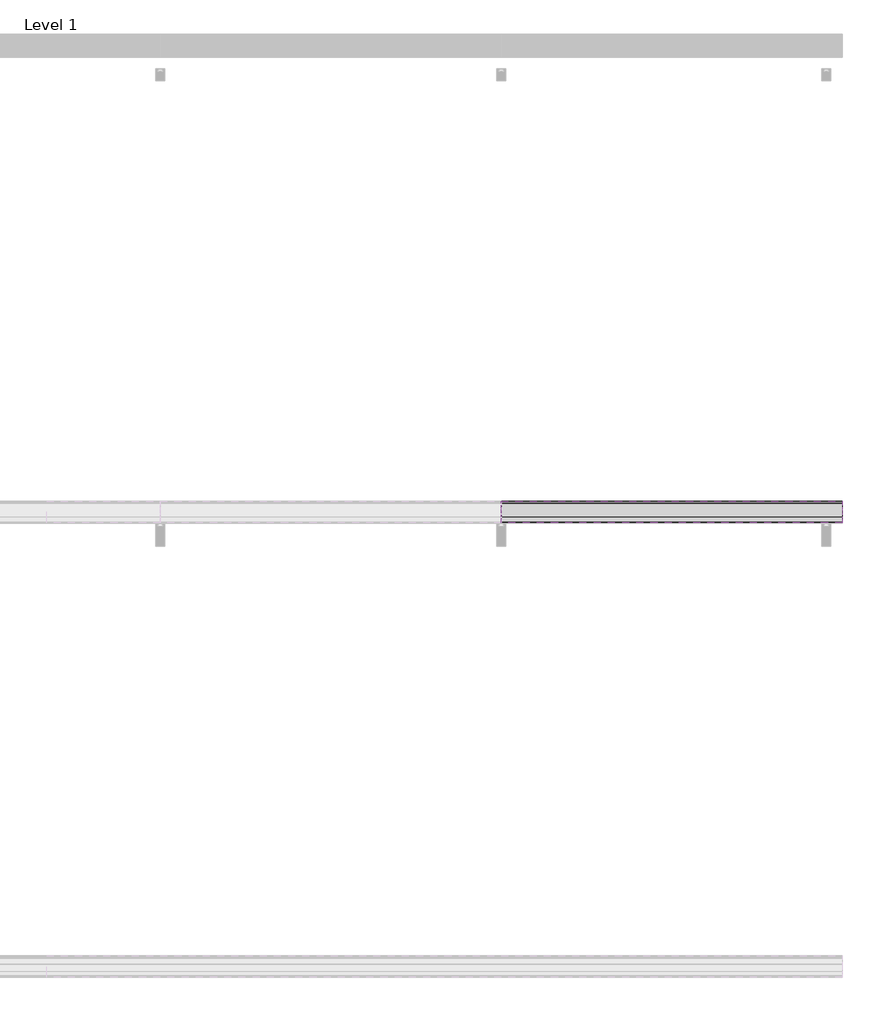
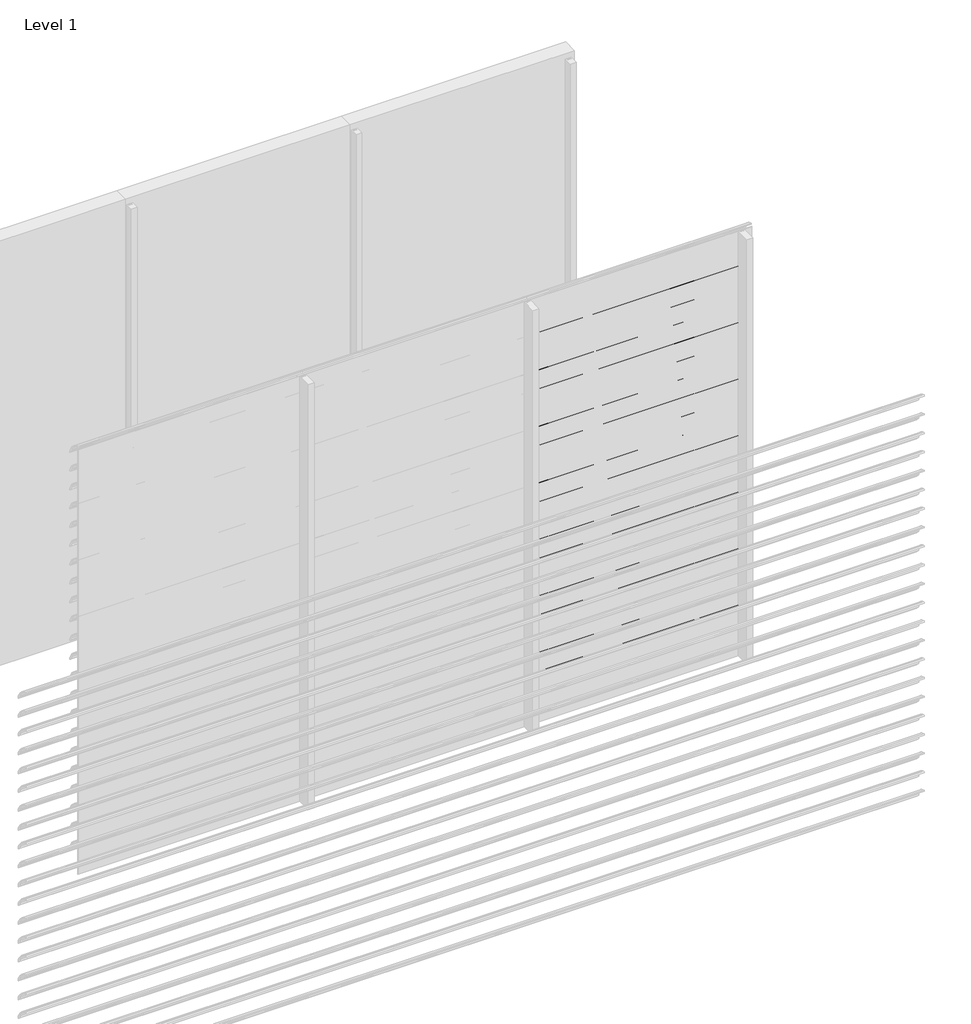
# One storey, part 24 of 57: 20 proxies.
"""IFC4 building model written with IfcOpenShell, lengths in millimetres."""

from ifc_helpers import new_model, si_unit, point, frame, frame_2d, origin, place, context, project, spatial, polyline, circle_curve, trimmed, segment, composite_curve, outline, extrude, element, save

model = new_model("IFC4")

# Units and contexts
model_context = context("Model", 3, world=origin())
ifc_project = project(units=[si_unit("LENGTHUNIT", "METRE", prefix="MILLI")], contexts=[model_context])

# Site, building, storey
site = spatial("IfcSite", under=ifc_project)
building = spatial("IfcBuilding", under=site)
storey = spatial("IfcBuildingStorey", under=building, Name="Level 1", Elevation=0.0)

# Proxies
placement = place(None, origin())
element("IfcBuildingElementProxy", 1, Name="Wall Sweeps", at=placement, inside=storey, context=model_context, shape_type="SweptSolid", body=[
    extrude(outline(composite_curve([segment(trimmed(circle_curve(frame_2d((-35993.7822526, 2750.4913792)), 4.2177474), [point((-35989.6985606, 2751.5462976))], [point((-35993.7822526, 2754.7091266))], False, "CARTESIAN"), True, "CONTINUOUS"), segment(trimmed(circle_curve(frame_2d((-36018.7150834, 2652.2536312)), 105.4456002), [point((-35993.7822526, 2754.7091266))], [point((-35971.7914298, 2746.6832099))], False, "CARTESIAN"), True, "CONTINUOUS"), segment(trimmed(circle_curve(frame_2d((-36061.7199745, 2598.0352476)), 173.7335887), [point((-35971.7914298, 2746.6832099))], [point((-35913.0720121, 2687.9637922))], False, "CARTESIAN"), True, "CONTINUOUS"), segment(trimmed(circle_curve(frame_2d((-36004.9297178, 2636.1860314)), 105.4456002), [point((-35913.0720121, 2687.9637922))], [point((-35903.6249616, 2665.4455765))], False, "CARTESIAN"), True, "CONTINUOUS"), segment(trimmed(circle_curve(frame_2d((-35907.809737, 2664.3307305)), 4.3307305), [point((-35903.6249616, 2665.4455765))], [point((-35909.0769196, 2660.189538))], False, "CARTESIAN"), True, "CONTINUOUS"), segment(polyline([(-35909.0769196, 2660.189538), (-35934.7401984, 2684.9722783)]), True, "CONTINUOUS"), segment(trimmed(circle_curve(frame_2d((-35931.3879574, 2687.2977626)), 4.079877), [point((-35934.7401984, 2684.9722783))], [point((-35930.7310597, 2691.3244091))], False, "CARTESIAN"), True, "CONTINUOUS"), segment(trimmed(circle_curve(frame_2d((-36014.6665585, 2669.2544323)), 86.7885467), [point((-35930.7310597, 2691.3244091))], [point((-35942.3028351, 2717.1683485))], True, "CARTESIAN"), True, "CONTINUOUS"), segment(polyline([(-35942.3028351, 2717.1683485), (-35940.7230099, 2719.9046861)]), True, "CONTINUOUS"), segment(trimmed(circle_curve(frame_2d((-36061.7199745, 2598.0352476)), 171.7335887), [point((-35940.7230099, 2719.9046861))], [point((-35972.7555872, 2744.9289618))], True, "CARTESIAN"), True, "CONTINUOUS"), segment(trimmed(circle_curve(frame_2d((-36018.7150834, 2652.2536312)), 103.4456002), [point((-35972.7555872, 2744.9289618))], [point((-35989.6985606, 2751.5462976))], True, "CARTESIAN"), True, "CONTINUOUS")], self_intersect=False)), frame((4500.0, 0.0, 0.0), z_axis=(1.0, 0.0, 0.0), x_axis=(0.0, 1.0, 0.0)), (0.0, 0.0, 1.0), 1500.0),
])
element("IfcBuildingElementProxy", 2, Name="Wall Sweeps", at=placement, inside=storey, context=model_context, shape_type="SweptSolid", body=[
    extrude(outline(composite_curve([segment(trimmed(circle_curve(frame_2d((-35993.7822526, 2617.4913792)), 4.2177474), [point((-35989.6985606, 2618.5462976))], [point((-35993.7822526, 2621.7091266))], False, "CARTESIAN"), True, "CONTINUOUS"), segment(trimmed(circle_curve(frame_2d((-36018.7150834, 2519.2536312)), 105.4456002), [point((-35993.7822526, 2621.7091266))], [point((-35971.7914298, 2613.6832099))], False, "CARTESIAN"), True, "CONTINUOUS"), segment(trimmed(circle_curve(frame_2d((-36061.7199745, 2465.0352476)), 173.7335887), [point((-35971.7914298, 2613.6832099))], [point((-35913.0720121, 2554.9637922))], False, "CARTESIAN"), True, "CONTINUOUS"), segment(trimmed(circle_curve(frame_2d((-36004.9297178, 2503.1860314)), 105.4456002), [point((-35913.0720121, 2554.9637922))], [point((-35903.6249616, 2532.4455765))], False, "CARTESIAN"), True, "CONTINUOUS"), segment(trimmed(circle_curve(frame_2d((-35907.809737, 2531.3307305)), 4.3307305), [point((-35903.6249616, 2532.4455765))], [point((-35909.0769196, 2527.189538))], False, "CARTESIAN"), True, "CONTINUOUS"), segment(polyline([(-35909.0769196, 2527.189538), (-35934.7401984, 2551.9722783)]), True, "CONTINUOUS"), segment(trimmed(circle_curve(frame_2d((-35931.3879574, 2554.2977626)), 4.079877), [point((-35934.7401984, 2551.9722783))], [point((-35930.7310597, 2558.3244091))], False, "CARTESIAN"), True, "CONTINUOUS"), segment(trimmed(circle_curve(frame_2d((-36014.6665585, 2536.2544323)), 86.7885467), [point((-35930.7310597, 2558.3244091))], [point((-35942.3028351, 2584.1683485))], True, "CARTESIAN"), True, "CONTINUOUS"), segment(polyline([(-35942.3028351, 2584.1683485), (-35940.7230099, 2586.9046861)]), True, "CONTINUOUS"), segment(trimmed(circle_curve(frame_2d((-36061.7199745, 2465.0352476)), 171.7335887), [point((-35940.7230099, 2586.9046861))], [point((-35972.7555872, 2611.9289618))], True, "CARTESIAN"), True, "CONTINUOUS"), segment(trimmed(circle_curve(frame_2d((-36018.7150834, 2519.2536312)), 103.4456002), [point((-35972.7555872, 2611.9289618))], [point((-35989.6985606, 2618.5462976))], True, "CARTESIAN"), True, "CONTINUOUS")], self_intersect=False)), frame((4500.0, 0.0, 0.0), z_axis=(1.0, 0.0, 0.0), x_axis=(0.0, 1.0, 0.0)), (0.0, 0.0, 1.0), 1500.0),
])
element("IfcBuildingElementProxy", 3, Name="Wall Sweeps", at=placement, inside=storey, context=model_context, shape_type="SweptSolid", body=[
    extrude(outline(composite_curve([segment(trimmed(circle_curve(frame_2d((-35993.7822526, 2484.4913792)), 4.2177474), [point((-35989.6985606, 2485.5462976))], [point((-35993.7822526, 2488.7091266))], False, "CARTESIAN"), True, "CONTINUOUS"), segment(trimmed(circle_curve(frame_2d((-36018.7150834, 2386.2536312)), 105.4456002), [point((-35993.7822526, 2488.7091266))], [point((-35971.7914298, 2480.6832099))], False, "CARTESIAN"), True, "CONTINUOUS"), segment(trimmed(circle_curve(frame_2d((-36061.7199745, 2332.0352476)), 173.7335887), [point((-35971.7914298, 2480.6832099))], [point((-35913.0720121, 2421.9637922))], False, "CARTESIAN"), True, "CONTINUOUS"), segment(trimmed(circle_curve(frame_2d((-36004.9297178, 2370.1860314)), 105.4456002), [point((-35913.0720121, 2421.9637922))], [point((-35903.6249616, 2399.4455765))], False, "CARTESIAN"), True, "CONTINUOUS"), segment(trimmed(circle_curve(frame_2d((-35907.809737, 2398.3307305)), 4.3307305), [point((-35903.6249616, 2399.4455765))], [point((-35909.0769196, 2394.189538))], False, "CARTESIAN"), True, "CONTINUOUS"), segment(polyline([(-35909.0769196, 2394.189538), (-35934.7401984, 2418.9722783)]), True, "CONTINUOUS"), segment(trimmed(circle_curve(frame_2d((-35931.3879574, 2421.2977626)), 4.079877), [point((-35934.7401984, 2418.9722783))], [point((-35930.7310597, 2425.3244091))], False, "CARTESIAN"), True, "CONTINUOUS"), segment(trimmed(circle_curve(frame_2d((-36014.6665585, 2403.2544323)), 86.7885467), [point((-35930.7310597, 2425.3244091))], [point((-35942.3028351, 2451.1683485))], True, "CARTESIAN"), True, "CONTINUOUS"), segment(polyline([(-35942.3028351, 2451.1683485), (-35940.7230099, 2453.9046861)]), True, "CONTINUOUS"), segment(trimmed(circle_curve(frame_2d((-36061.7199745, 2332.0352476)), 171.7335887), [point((-35940.7230099, 2453.9046861))], [point((-35972.7555872, 2478.9289618))], True, "CARTESIAN"), True, "CONTINUOUS"), segment(trimmed(circle_curve(frame_2d((-36018.7150834, 2386.2536312)), 103.4456002), [point((-35972.7555872, 2478.9289618))], [point((-35989.6985606, 2485.5462976))], True, "CARTESIAN"), True, "CONTINUOUS")], self_intersect=False)), frame((4500.0, 0.0, 0.0), z_axis=(1.0, 0.0, 0.0), x_axis=(0.0, 1.0, 0.0)), (0.0, 0.0, 1.0), 1500.0),
])
element("IfcBuildingElementProxy", 4, Name="Wall Sweeps", at=placement, inside=storey, context=model_context, shape_type="SweptSolid", body=[
    extrude(outline(composite_curve([segment(trimmed(circle_curve(frame_2d((-35993.7822526, 2351.4913792)), 4.2177474), [point((-35989.6985606, 2352.5462976))], [point((-35993.7822526, 2355.7091266))], False, "CARTESIAN"), True, "CONTINUOUS"), segment(trimmed(circle_curve(frame_2d((-36018.7150834, 2253.2536312)), 105.4456002), [point((-35993.7822526, 2355.7091266))], [point((-35971.7914298, 2347.6832099))], False, "CARTESIAN"), True, "CONTINUOUS"), segment(trimmed(circle_curve(frame_2d((-36061.7199745, 2199.0352476)), 173.7335887), [point((-35971.7914298, 2347.6832099))], [point((-35913.0720121, 2288.9637922))], False, "CARTESIAN"), True, "CONTINUOUS"), segment(trimmed(circle_curve(frame_2d((-36004.9297178, 2237.1860314)), 105.4456002), [point((-35913.0720121, 2288.9637922))], [point((-35903.6249616, 2266.4455765))], False, "CARTESIAN"), True, "CONTINUOUS"), segment(trimmed(circle_curve(frame_2d((-35907.809737, 2265.3307305)), 4.3307305), [point((-35903.6249616, 2266.4455765))], [point((-35909.0769196, 2261.189538))], False, "CARTESIAN"), True, "CONTINUOUS"), segment(polyline([(-35909.0769196, 2261.189538), (-35934.7401984, 2285.9722783)]), True, "CONTINUOUS"), segment(trimmed(circle_curve(frame_2d((-35931.3879574, 2288.2977626)), 4.079877), [point((-35934.7401984, 2285.9722783))], [point((-35930.7310597, 2292.3244091))], False, "CARTESIAN"), True, "CONTINUOUS"), segment(trimmed(circle_curve(frame_2d((-36014.6665585, 2270.2544323)), 86.7885467), [point((-35930.7310597, 2292.3244091))], [point((-35942.3028351, 2318.1683485))], True, "CARTESIAN"), True, "CONTINUOUS"), segment(polyline([(-35942.3028351, 2318.1683485), (-35940.7230099, 2320.9046861)]), True, "CONTINUOUS"), segment(trimmed(circle_curve(frame_2d((-36061.7199745, 2199.0352476)), 171.7335887), [point((-35940.7230099, 2320.9046861))], [point((-35972.7555872, 2345.9289618))], True, "CARTESIAN"), True, "CONTINUOUS"), segment(trimmed(circle_curve(frame_2d((-36018.7150834, 2253.2536312)), 103.4456002), [point((-35972.7555872, 2345.9289618))], [point((-35989.6985606, 2352.5462976))], True, "CARTESIAN"), True, "CONTINUOUS")], self_intersect=False)), frame((4500.0, 0.0, 0.0), z_axis=(1.0, 0.0, 0.0), x_axis=(0.0, 1.0, 0.0)), (0.0, 0.0, 1.0), 1500.0),
])
element("IfcBuildingElementProxy", 5, Name="Wall Sweeps", at=placement, inside=storey, context=model_context, shape_type="SweptSolid", body=[
    extrude(outline(composite_curve([segment(trimmed(circle_curve(frame_2d((-35993.7822526, 2218.4913792)), 4.2177474), [point((-35989.6985606, 2219.5462976))], [point((-35993.7822526, 2222.7091266))], False, "CARTESIAN"), True, "CONTINUOUS"), segment(trimmed(circle_curve(frame_2d((-36018.7150834, 2120.2536312)), 105.4456002), [point((-35993.7822526, 2222.7091266))], [point((-35971.7914298, 2214.6832099))], False, "CARTESIAN"), True, "CONTINUOUS"), segment(trimmed(circle_curve(frame_2d((-36061.7199745, 2066.0352476)), 173.7335887), [point((-35971.7914298, 2214.6832099))], [point((-35913.0720121, 2155.9637922))], False, "CARTESIAN"), True, "CONTINUOUS"), segment(trimmed(circle_curve(frame_2d((-36004.9297178, 2104.1860314)), 105.4456002), [point((-35913.0720121, 2155.9637922))], [point((-35903.6249616, 2133.4455765))], False, "CARTESIAN"), True, "CONTINUOUS"), segment(trimmed(circle_curve(frame_2d((-35907.809737, 2132.3307305)), 4.3307305), [point((-35903.6249616, 2133.4455765))], [point((-35909.0769196, 2128.189538))], False, "CARTESIAN"), True, "CONTINUOUS"), segment(polyline([(-35909.0769196, 2128.189538), (-35934.7401984, 2152.9722783)]), True, "CONTINUOUS"), segment(trimmed(circle_curve(frame_2d((-35931.3879574, 2155.2977626)), 4.079877), [point((-35934.7401984, 2152.9722783))], [point((-35930.7310597, 2159.3244091))], False, "CARTESIAN"), True, "CONTINUOUS"), segment(trimmed(circle_curve(frame_2d((-36014.6665585, 2137.2544323)), 86.7885467), [point((-35930.7310597, 2159.3244091))], [point((-35942.3028351, 2185.1683485))], True, "CARTESIAN"), True, "CONTINUOUS"), segment(polyline([(-35942.3028351, 2185.1683485), (-35940.7230099, 2187.9046861)]), True, "CONTINUOUS"), segment(trimmed(circle_curve(frame_2d((-36061.7199745, 2066.0352476)), 171.7335887), [point((-35940.7230099, 2187.9046861))], [point((-35972.7555872, 2212.9289618))], True, "CARTESIAN"), True, "CONTINUOUS"), segment(trimmed(circle_curve(frame_2d((-36018.7150834, 2120.2536312)), 103.4456002), [point((-35972.7555872, 2212.9289618))], [point((-35989.6985606, 2219.5462976))], True, "CARTESIAN"), True, "CONTINUOUS")], self_intersect=False)), frame((4500.0, 0.0, 0.0), z_axis=(1.0, 0.0, 0.0), x_axis=(0.0, 1.0, 0.0)), (0.0, 0.0, 1.0), 1500.0),
])
element("IfcBuildingElementProxy", 6, Name="Wall Sweeps", at=placement, inside=storey, context=model_context, shape_type="SweptSolid", body=[
    extrude(outline(composite_curve([segment(trimmed(circle_curve(frame_2d((-35993.7822526, 2085.4913792)), 4.2177474), [point((-35989.6985606, 2086.5462976))], [point((-35993.7822526, 2089.7091266))], False, "CARTESIAN"), True, "CONTINUOUS"), segment(trimmed(circle_curve(frame_2d((-36018.7150834, 1987.2536312)), 105.4456002), [point((-35993.7822526, 2089.7091266))], [point((-35971.7914298, 2081.6832099))], False, "CARTESIAN"), True, "CONTINUOUS"), segment(trimmed(circle_curve(frame_2d((-36061.7199745, 1933.0352476)), 173.7335887), [point((-35971.7914298, 2081.6832099))], [point((-35913.0720121, 2022.9637922))], False, "CARTESIAN"), True, "CONTINUOUS"), segment(trimmed(circle_curve(frame_2d((-36004.9297178, 1971.1860314)), 105.4456002), [point((-35913.0720121, 2022.9637922))], [point((-35903.6249616, 2000.4455765))], False, "CARTESIAN"), True, "CONTINUOUS"), segment(trimmed(circle_curve(frame_2d((-35907.809737, 1999.3307305)), 4.3307305), [point((-35903.6249616, 2000.4455765))], [point((-35909.0769196, 1995.189538))], False, "CARTESIAN"), True, "CONTINUOUS"), segment(polyline([(-35909.0769196, 1995.189538), (-35934.7401984, 2019.9722783)]), True, "CONTINUOUS"), segment(trimmed(circle_curve(frame_2d((-35931.3879574, 2022.2977626)), 4.079877), [point((-35934.7401984, 2019.9722783))], [point((-35930.7310597, 2026.3244091))], False, "CARTESIAN"), True, "CONTINUOUS"), segment(trimmed(circle_curve(frame_2d((-36014.6665585, 2004.2544323)), 86.7885467), [point((-35930.7310597, 2026.3244091))], [point((-35942.3028351, 2052.1683485))], True, "CARTESIAN"), True, "CONTINUOUS"), segment(polyline([(-35942.3028351, 2052.1683485), (-35940.7230099, 2054.9046861)]), True, "CONTINUOUS"), segment(trimmed(circle_curve(frame_2d((-36061.7199745, 1933.0352476)), 171.7335887), [point((-35940.7230099, 2054.9046861))], [point((-35972.7555872, 2079.9289618))], True, "CARTESIAN"), True, "CONTINUOUS"), segment(trimmed(circle_curve(frame_2d((-36018.7150834, 1987.2536312)), 103.4456002), [point((-35972.7555872, 2079.9289618))], [point((-35989.6985606, 2086.5462976))], True, "CARTESIAN"), True, "CONTINUOUS")], self_intersect=False)), frame((4500.0, 0.0, 0.0), z_axis=(1.0, 0.0, 0.0), x_axis=(0.0, 1.0, 0.0)), (0.0, 0.0, 1.0), 1500.0),
])
element("IfcBuildingElementProxy", 7, Name="Wall Sweeps", at=placement, inside=storey, context=model_context, shape_type="SweptSolid", body=[
    extrude(outline(composite_curve([segment(trimmed(circle_curve(frame_2d((-35993.7822526, 1952.4913792)), 4.2177474), [point((-35989.6985606, 1953.5462976))], [point((-35993.7822526, 1956.7091266))], False, "CARTESIAN"), True, "CONTINUOUS"), segment(trimmed(circle_curve(frame_2d((-36018.7150834, 1854.2536312)), 105.4456002), [point((-35993.7822526, 1956.7091266))], [point((-35971.7914298, 1948.6832099))], False, "CARTESIAN"), True, "CONTINUOUS"), segment(trimmed(circle_curve(frame_2d((-36061.7199745, 1800.0352476)), 173.7335887), [point((-35971.7914298, 1948.6832099))], [point((-35913.0720121, 1889.9637922))], False, "CARTESIAN"), True, "CONTINUOUS"), segment(trimmed(circle_curve(frame_2d((-36004.9297178, 1838.1860314)), 105.4456002), [point((-35913.0720121, 1889.9637922))], [point((-35903.6249616, 1867.4455765))], False, "CARTESIAN"), True, "CONTINUOUS"), segment(trimmed(circle_curve(frame_2d((-35907.809737, 1866.3307305)), 4.3307305), [point((-35903.6249616, 1867.4455765))], [point((-35909.0769196, 1862.189538))], False, "CARTESIAN"), True, "CONTINUOUS"), segment(polyline([(-35909.0769196, 1862.189538), (-35934.7401984, 1886.9722783)]), True, "CONTINUOUS"), segment(trimmed(circle_curve(frame_2d((-35931.3879574, 1889.2977626)), 4.079877), [point((-35934.7401984, 1886.9722783))], [point((-35930.7310597, 1893.3244091))], False, "CARTESIAN"), True, "CONTINUOUS"), segment(trimmed(circle_curve(frame_2d((-36014.6665585, 1871.2544323)), 86.7885467), [point((-35930.7310597, 1893.3244091))], [point((-35942.3028351, 1919.1683485))], True, "CARTESIAN"), True, "CONTINUOUS"), segment(polyline([(-35942.3028351, 1919.1683485), (-35940.7230099, 1921.9046861)]), True, "CONTINUOUS"), segment(trimmed(circle_curve(frame_2d((-36061.7199745, 1800.0352476)), 171.7335887), [point((-35940.7230099, 1921.9046861))], [point((-35972.7555872, 1946.9289618))], True, "CARTESIAN"), True, "CONTINUOUS"), segment(trimmed(circle_curve(frame_2d((-36018.7150834, 1854.2536312)), 103.4456002), [point((-35972.7555872, 1946.9289618))], [point((-35989.6985606, 1953.5462976))], True, "CARTESIAN"), True, "CONTINUOUS")], self_intersect=False)), frame((4500.0, 0.0, 0.0), z_axis=(1.0, 0.0, 0.0), x_axis=(0.0, 1.0, 0.0)), (0.0, 0.0, 1.0), 1500.0),
])
element("IfcBuildingElementProxy", 8, Name="Wall Sweeps", at=placement, inside=storey, context=model_context, shape_type="SweptSolid", body=[
    extrude(outline(composite_curve([segment(trimmed(circle_curve(frame_2d((-35993.7822526, 1819.4913792)), 4.2177474), [point((-35989.6985606, 1820.5462976))], [point((-35993.7822526, 1823.7091266))], False, "CARTESIAN"), True, "CONTINUOUS"), segment(trimmed(circle_curve(frame_2d((-36018.7150834, 1721.2536312)), 105.4456002), [point((-35993.7822526, 1823.7091266))], [point((-35971.7914298, 1815.6832099))], False, "CARTESIAN"), True, "CONTINUOUS"), segment(trimmed(circle_curve(frame_2d((-36061.7199745, 1667.0352476)), 173.7335887), [point((-35971.7914298, 1815.6832099))], [point((-35913.0720121, 1756.9637922))], False, "CARTESIAN"), True, "CONTINUOUS"), segment(trimmed(circle_curve(frame_2d((-36004.9297178, 1705.1860314)), 105.4456002), [point((-35913.0720121, 1756.9637922))], [point((-35903.6249616, 1734.4455765))], False, "CARTESIAN"), True, "CONTINUOUS"), segment(trimmed(circle_curve(frame_2d((-35907.809737, 1733.3307305)), 4.3307305), [point((-35903.6249616, 1734.4455765))], [point((-35909.0769196, 1729.189538))], False, "CARTESIAN"), True, "CONTINUOUS"), segment(polyline([(-35909.0769196, 1729.189538), (-35934.7401984, 1753.9722783)]), True, "CONTINUOUS"), segment(trimmed(circle_curve(frame_2d((-35931.3879574, 1756.2977626)), 4.079877), [point((-35934.7401984, 1753.9722783))], [point((-35930.7310597, 1760.3244091))], False, "CARTESIAN"), True, "CONTINUOUS"), segment(trimmed(circle_curve(frame_2d((-36014.6665585, 1738.2544323)), 86.7885467), [point((-35930.7310597, 1760.3244091))], [point((-35942.3028351, 1786.1683485))], True, "CARTESIAN"), True, "CONTINUOUS"), segment(polyline([(-35942.3028351, 1786.1683485), (-35940.7230099, 1788.9046861)]), True, "CONTINUOUS"), segment(trimmed(circle_curve(frame_2d((-36061.7199745, 1667.0352476)), 171.7335887), [point((-35940.7230099, 1788.9046861))], [point((-35972.7555872, 1813.9289618))], True, "CARTESIAN"), True, "CONTINUOUS"), segment(trimmed(circle_curve(frame_2d((-36018.7150834, 1721.2536312)), 103.4456002), [point((-35972.7555872, 1813.9289618))], [point((-35989.6985606, 1820.5462976))], True, "CARTESIAN"), True, "CONTINUOUS")], self_intersect=False)), frame((4500.0, 0.0, 0.0), z_axis=(1.0, 0.0, 0.0), x_axis=(0.0, 1.0, 0.0)), (0.0, 0.0, 1.0), 1500.0),
])
element("IfcBuildingElementProxy", 9, Name="Wall Sweeps", at=placement, inside=storey, context=model_context, shape_type="SweptSolid", body=[
    extrude(outline(composite_curve([segment(trimmed(circle_curve(frame_2d((-35993.7822526, 1686.4913792)), 4.2177474), [point((-35989.6985606, 1687.5462976))], [point((-35993.7822526, 1690.7091266))], False, "CARTESIAN"), True, "CONTINUOUS"), segment(trimmed(circle_curve(frame_2d((-36018.7150834, 1588.2536312)), 105.4456002), [point((-35993.7822526, 1690.7091266))], [point((-35971.7914298, 1682.6832099))], False, "CARTESIAN"), True, "CONTINUOUS"), segment(trimmed(circle_curve(frame_2d((-36061.7199745, 1534.0352476)), 173.7335887), [point((-35971.7914298, 1682.6832099))], [point((-35913.0720121, 1623.9637922))], False, "CARTESIAN"), True, "CONTINUOUS"), segment(trimmed(circle_curve(frame_2d((-36004.9297178, 1572.1860314)), 105.4456002), [point((-35913.0720121, 1623.9637922))], [point((-35903.6249616, 1601.4455765))], False, "CARTESIAN"), True, "CONTINUOUS"), segment(trimmed(circle_curve(frame_2d((-35907.809737, 1600.3307305)), 4.3307305), [point((-35903.6249616, 1601.4455765))], [point((-35909.0769196, 1596.189538))], False, "CARTESIAN"), True, "CONTINUOUS"), segment(polyline([(-35909.0769196, 1596.189538), (-35934.7401984, 1620.9722783)]), True, "CONTINUOUS"), segment(trimmed(circle_curve(frame_2d((-35931.3879574, 1623.2977626)), 4.079877), [point((-35934.7401984, 1620.9722783))], [point((-35930.7310597, 1627.3244091))], False, "CARTESIAN"), True, "CONTINUOUS"), segment(trimmed(circle_curve(frame_2d((-36014.6665585, 1605.2544323)), 86.7885467), [point((-35930.7310597, 1627.3244091))], [point((-35942.3028351, 1653.1683485))], True, "CARTESIAN"), True, "CONTINUOUS"), segment(polyline([(-35942.3028351, 1653.1683485), (-35940.7230099, 1655.9046861)]), True, "CONTINUOUS"), segment(trimmed(circle_curve(frame_2d((-36061.7199745, 1534.0352476)), 171.7335887), [point((-35940.7230099, 1655.9046861))], [point((-35972.7555872, 1680.9289618))], True, "CARTESIAN"), True, "CONTINUOUS"), segment(trimmed(circle_curve(frame_2d((-36018.7150834, 1588.2536312)), 103.4456002), [point((-35972.7555872, 1680.9289618))], [point((-35989.6985606, 1687.5462976))], True, "CARTESIAN"), True, "CONTINUOUS")], self_intersect=False)), frame((4500.0, 0.0, 0.0), z_axis=(1.0, 0.0, 0.0), x_axis=(0.0, 1.0, 0.0)), (0.0, 0.0, 1.0), 1500.0),
])
element("IfcBuildingElementProxy", 10, Name="Wall Sweeps", at=placement, inside=storey, context=model_context, shape_type="SweptSolid", body=[
    extrude(outline(composite_curve([segment(trimmed(circle_curve(frame_2d((-35993.7822526, 1553.4913792)), 4.2177474), [point((-35989.6985606, 1554.5462976))], [point((-35993.7822526, 1557.7091266))], False, "CARTESIAN"), True, "CONTINUOUS"), segment(trimmed(circle_curve(frame_2d((-36018.7150834, 1455.2536312)), 105.4456002), [point((-35993.7822526, 1557.7091266))], [point((-35971.7914298, 1549.6832099))], False, "CARTESIAN"), True, "CONTINUOUS"), segment(trimmed(circle_curve(frame_2d((-36061.7199745, 1401.0352476)), 173.7335887), [point((-35971.7914298, 1549.6832099))], [point((-35913.0720121, 1490.9637922))], False, "CARTESIAN"), True, "CONTINUOUS"), segment(trimmed(circle_curve(frame_2d((-36004.9297178, 1439.1860314)), 105.4456002), [point((-35913.0720121, 1490.9637922))], [point((-35903.6249616, 1468.4455765))], False, "CARTESIAN"), True, "CONTINUOUS"), segment(trimmed(circle_curve(frame_2d((-35907.809737, 1467.3307305)), 4.3307305), [point((-35903.6249616, 1468.4455765))], [point((-35909.0769196, 1463.189538))], False, "CARTESIAN"), True, "CONTINUOUS"), segment(polyline([(-35909.0769196, 1463.189538), (-35934.7401984, 1487.9722783)]), True, "CONTINUOUS"), segment(trimmed(circle_curve(frame_2d((-35931.3879574, 1490.2977626)), 4.079877), [point((-35934.7401984, 1487.9722783))], [point((-35930.7310597, 1494.3244091))], False, "CARTESIAN"), True, "CONTINUOUS"), segment(trimmed(circle_curve(frame_2d((-36014.6665585, 1472.2544323)), 86.7885467), [point((-35930.7310597, 1494.3244091))], [point((-35942.3028351, 1520.1683485))], True, "CARTESIAN"), True, "CONTINUOUS"), segment(polyline([(-35942.3028351, 1520.1683485), (-35940.7230099, 1522.9046861)]), True, "CONTINUOUS"), segment(trimmed(circle_curve(frame_2d((-36061.7199745, 1401.0352476)), 171.7335887), [point((-35940.7230099, 1522.9046861))], [point((-35972.7555872, 1547.9289618))], True, "CARTESIAN"), True, "CONTINUOUS"), segment(trimmed(circle_curve(frame_2d((-36018.7150834, 1455.2536312)), 103.4456002), [point((-35972.7555872, 1547.9289618))], [point((-35989.6985606, 1554.5462976))], True, "CARTESIAN"), True, "CONTINUOUS")], self_intersect=False)), frame((4500.0, 0.0, 0.0), z_axis=(1.0, 0.0, 0.0), x_axis=(0.0, 1.0, 0.0)), (0.0, 0.0, 1.0), 1500.0),
])
element("IfcBuildingElementProxy", 11, Name="Wall Sweeps", at=placement, inside=storey, context=model_context, shape_type="SweptSolid", body=[
    extrude(outline(composite_curve([segment(trimmed(circle_curve(frame_2d((-35993.7822526, 1420.4913792)), 4.2177474), [point((-35989.6985606, 1421.5462976))], [point((-35993.7822526, 1424.7091266))], False, "CARTESIAN"), True, "CONTINUOUS"), segment(trimmed(circle_curve(frame_2d((-36018.7150834, 1322.2536312)), 105.4456002), [point((-35993.7822526, 1424.7091266))], [point((-35971.7914298, 1416.6832099))], False, "CARTESIAN"), True, "CONTINUOUS"), segment(trimmed(circle_curve(frame_2d((-36061.7199745, 1268.0352476)), 173.7335887), [point((-35971.7914298, 1416.6832099))], [point((-35913.0720121, 1357.9637922))], False, "CARTESIAN"), True, "CONTINUOUS"), segment(trimmed(circle_curve(frame_2d((-36004.9297178, 1306.1860314)), 105.4456002), [point((-35913.0720121, 1357.9637922))], [point((-35903.6249616, 1335.4455765))], False, "CARTESIAN"), True, "CONTINUOUS"), segment(trimmed(circle_curve(frame_2d((-35907.809737, 1334.3307305)), 4.3307305), [point((-35903.6249616, 1335.4455765))], [point((-35909.0769196, 1330.189538))], False, "CARTESIAN"), True, "CONTINUOUS"), segment(polyline([(-35909.0769196, 1330.189538), (-35934.7401984, 1354.9722783)]), True, "CONTINUOUS"), segment(trimmed(circle_curve(frame_2d((-35931.3879574, 1357.2977626)), 4.079877), [point((-35934.7401984, 1354.9722783))], [point((-35930.7310597, 1361.3244091))], False, "CARTESIAN"), True, "CONTINUOUS"), segment(trimmed(circle_curve(frame_2d((-36014.6665585, 1339.2544323)), 86.7885467), [point((-35930.7310597, 1361.3244091))], [point((-35942.3028351, 1387.1683485))], True, "CARTESIAN"), True, "CONTINUOUS"), segment(polyline([(-35942.3028351, 1387.1683485), (-35940.7230099, 1389.9046861)]), True, "CONTINUOUS"), segment(trimmed(circle_curve(frame_2d((-36061.7199745, 1268.0352476)), 171.7335887), [point((-35940.7230099, 1389.9046861))], [point((-35972.7555872, 1414.9289618))], True, "CARTESIAN"), True, "CONTINUOUS"), segment(trimmed(circle_curve(frame_2d((-36018.7150834, 1322.2536312)), 103.4456002), [point((-35972.7555872, 1414.9289618))], [point((-35989.6985606, 1421.5462976))], True, "CARTESIAN"), True, "CONTINUOUS")], self_intersect=False)), frame((4500.0, 0.0, 0.0), z_axis=(1.0, 0.0, 0.0), x_axis=(0.0, 1.0, 0.0)), (0.0, 0.0, 1.0), 1500.0),
])
element("IfcBuildingElementProxy", 12, Name="Wall Sweeps", at=placement, inside=storey, context=model_context, shape_type="SweptSolid", body=[
    extrude(outline(composite_curve([segment(trimmed(circle_curve(frame_2d((-35993.7822526, 1287.4913792)), 4.2177474), [point((-35989.6985606, 1288.5462976))], [point((-35993.7822526, 1291.7091266))], False, "CARTESIAN"), True, "CONTINUOUS"), segment(trimmed(circle_curve(frame_2d((-36018.7150834, 1189.2536312)), 105.4456002), [point((-35993.7822526, 1291.7091266))], [point((-35971.7914298, 1283.6832099))], False, "CARTESIAN"), True, "CONTINUOUS"), segment(trimmed(circle_curve(frame_2d((-36061.7199745, 1135.0352476)), 173.7335887), [point((-35971.7914298, 1283.6832099))], [point((-35913.0720121, 1224.9637922))], False, "CARTESIAN"), True, "CONTINUOUS"), segment(trimmed(circle_curve(frame_2d((-36004.9297178, 1173.1860314)), 105.4456002), [point((-35913.0720121, 1224.9637922))], [point((-35903.6249616, 1202.4455765))], False, "CARTESIAN"), True, "CONTINUOUS"), segment(trimmed(circle_curve(frame_2d((-35907.809737, 1201.3307305)), 4.3307305), [point((-35903.6249616, 1202.4455765))], [point((-35909.0769196, 1197.189538))], False, "CARTESIAN"), True, "CONTINUOUS"), segment(polyline([(-35909.0769196, 1197.189538), (-35934.7401984, 1221.9722783)]), True, "CONTINUOUS"), segment(trimmed(circle_curve(frame_2d((-35931.3879574, 1224.2977626)), 4.079877), [point((-35934.7401984, 1221.9722783))], [point((-35930.7310597, 1228.3244091))], False, "CARTESIAN"), True, "CONTINUOUS"), segment(trimmed(circle_curve(frame_2d((-36014.6665585, 1206.2544323)), 86.7885467), [point((-35930.7310597, 1228.3244091))], [point((-35942.3028351, 1254.1683485))], True, "CARTESIAN"), True, "CONTINUOUS"), segment(polyline([(-35942.3028351, 1254.1683485), (-35940.7230099, 1256.9046861)]), True, "CONTINUOUS"), segment(trimmed(circle_curve(frame_2d((-36061.7199745, 1135.0352476)), 171.7335887), [point((-35940.7230099, 1256.9046861))], [point((-35972.7555872, 1281.9289618))], True, "CARTESIAN"), True, "CONTINUOUS"), segment(trimmed(circle_curve(frame_2d((-36018.7150834, 1189.2536312)), 103.4456002), [point((-35972.7555872, 1281.9289618))], [point((-35989.6985606, 1288.5462976))], True, "CARTESIAN"), True, "CONTINUOUS")], self_intersect=False)), frame((4500.0, 0.0, 0.0), z_axis=(1.0, 0.0, 0.0), x_axis=(0.0, 1.0, 0.0)), (0.0, 0.0, 1.0), 1500.0),
])
element("IfcBuildingElementProxy", 13, Name="Wall Sweeps", at=placement, inside=storey, context=model_context, shape_type="SweptSolid", body=[
    extrude(outline(composite_curve([segment(trimmed(circle_curve(frame_2d((-35993.7822526, 1154.4913792)), 4.2177474), [point((-35989.6985606, 1155.5462976))], [point((-35993.7822526, 1158.7091266))], False, "CARTESIAN"), True, "CONTINUOUS"), segment(trimmed(circle_curve(frame_2d((-36018.7150834, 1056.2536312)), 105.4456002), [point((-35993.7822526, 1158.7091266))], [point((-35971.7914298, 1150.6832099))], False, "CARTESIAN"), True, "CONTINUOUS"), segment(trimmed(circle_curve(frame_2d((-36061.7199745, 1002.0352476)), 173.7335887), [point((-35971.7914298, 1150.6832099))], [point((-35913.0720121, 1091.9637922))], False, "CARTESIAN"), True, "CONTINUOUS"), segment(trimmed(circle_curve(frame_2d((-36004.9297178, 1040.1860314)), 105.4456002), [point((-35913.0720121, 1091.9637922))], [point((-35903.6249616, 1069.4455765))], False, "CARTESIAN"), True, "CONTINUOUS"), segment(trimmed(circle_curve(frame_2d((-35907.809737, 1068.3307305)), 4.3307305), [point((-35903.6249616, 1069.4455765))], [point((-35909.0769196, 1064.189538))], False, "CARTESIAN"), True, "CONTINUOUS"), segment(polyline([(-35909.0769196, 1064.189538), (-35934.7401984, 1088.9722783)]), True, "CONTINUOUS"), segment(trimmed(circle_curve(frame_2d((-35931.3879574, 1091.2977626)), 4.079877), [point((-35934.7401984, 1088.9722783))], [point((-35930.7310597, 1095.3244091))], False, "CARTESIAN"), True, "CONTINUOUS"), segment(trimmed(circle_curve(frame_2d((-36014.6665585, 1073.2544323)), 86.7885467), [point((-35930.7310597, 1095.3244091))], [point((-35942.3028351, 1121.1683485))], True, "CARTESIAN"), True, "CONTINUOUS"), segment(polyline([(-35942.3028351, 1121.1683485), (-35940.7230099, 1123.9046861)]), True, "CONTINUOUS"), segment(trimmed(circle_curve(frame_2d((-36061.7199745, 1002.0352476)), 171.7335887), [point((-35940.7230099, 1123.9046861))], [point((-35972.7555872, 1148.9289618))], True, "CARTESIAN"), True, "CONTINUOUS"), segment(trimmed(circle_curve(frame_2d((-36018.7150834, 1056.2536312)), 103.4456002), [point((-35972.7555872, 1148.9289618))], [point((-35989.6985606, 1155.5462976))], True, "CARTESIAN"), True, "CONTINUOUS")], self_intersect=False)), frame((4500.0, 0.0, 0.0), z_axis=(1.0, 0.0, 0.0), x_axis=(0.0, 1.0, 0.0)), (0.0, 0.0, 1.0), 1500.0),
])
element("IfcBuildingElementProxy", 14, Name="Wall Sweeps", at=placement, inside=storey, context=model_context, shape_type="SweptSolid", body=[
    extrude(outline(composite_curve([segment(trimmed(circle_curve(frame_2d((-35993.7822526, 1021.4913792)), 4.2177474), [point((-35989.6985606, 1022.5462976))], [point((-35993.7822526, 1025.7091266))], False, "CARTESIAN"), True, "CONTINUOUS"), segment(trimmed(circle_curve(frame_2d((-36018.7150834, 923.2536312)), 105.4456002), [point((-35993.7822526, 1025.7091266))], [point((-35971.7914298, 1017.6832099))], False, "CARTESIAN"), True, "CONTINUOUS"), segment(trimmed(circle_curve(frame_2d((-36061.7199745, 869.0352476)), 173.7335887), [point((-35971.7914298, 1017.6832099))], [point((-35913.0720121, 958.9637922))], False, "CARTESIAN"), True, "CONTINUOUS"), segment(trimmed(circle_curve(frame_2d((-36004.9297178, 907.1860314)), 105.4456002), [point((-35913.0720121, 958.9637922))], [point((-35903.6249616, 936.4455765))], False, "CARTESIAN"), True, "CONTINUOUS"), segment(trimmed(circle_curve(frame_2d((-35907.809737, 935.3307305)), 4.3307305), [point((-35903.6249616, 936.4455765))], [point((-35909.0769196, 931.189538))], False, "CARTESIAN"), True, "CONTINUOUS"), segment(polyline([(-35909.0769196, 931.189538), (-35934.7401984, 955.9722783)]), True, "CONTINUOUS"), segment(trimmed(circle_curve(frame_2d((-35931.3879574, 958.2977626)), 4.079877), [point((-35934.7401984, 955.9722783))], [point((-35930.7310597, 962.3244091))], False, "CARTESIAN"), True, "CONTINUOUS"), segment(trimmed(circle_curve(frame_2d((-36014.6665585, 940.2544323)), 86.7885467), [point((-35930.7310597, 962.3244091))], [point((-35942.3028351, 988.1683485))], True, "CARTESIAN"), True, "CONTINUOUS"), segment(polyline([(-35942.3028351, 988.1683485), (-35940.7230099, 990.9046861)]), True, "CONTINUOUS"), segment(trimmed(circle_curve(frame_2d((-36061.7199745, 869.0352476)), 171.7335887), [point((-35940.7230099, 990.9046861))], [point((-35972.7555872, 1015.9289618))], True, "CARTESIAN"), True, "CONTINUOUS"), segment(trimmed(circle_curve(frame_2d((-36018.7150834, 923.2536312)), 103.4456002), [point((-35972.7555872, 1015.9289618))], [point((-35989.6985606, 1022.5462976))], True, "CARTESIAN"), True, "CONTINUOUS")], self_intersect=False)), frame((4500.0, 0.0, 0.0), z_axis=(1.0, 0.0, 0.0), x_axis=(0.0, 1.0, 0.0)), (0.0, 0.0, 1.0), 1500.0),
])
element("IfcBuildingElementProxy", 15, Name="Wall Sweeps", at=placement, inside=storey, context=model_context, shape_type="SweptSolid", body=[
    extrude(outline(composite_curve([segment(trimmed(circle_curve(frame_2d((-35993.7822526, 888.4913792)), 4.2177474), [point((-35989.6985606, 889.5462976))], [point((-35993.7822526, 892.7091266))], False, "CARTESIAN"), True, "CONTINUOUS"), segment(trimmed(circle_curve(frame_2d((-36018.7150834, 790.2536312)), 105.4456002), [point((-35993.7822526, 892.7091266))], [point((-35971.7914298, 884.6832099))], False, "CARTESIAN"), True, "CONTINUOUS"), segment(trimmed(circle_curve(frame_2d((-36061.7199745, 736.0352476)), 173.7335887), [point((-35971.7914298, 884.6832099))], [point((-35913.0720121, 825.9637922))], False, "CARTESIAN"), True, "CONTINUOUS"), segment(trimmed(circle_curve(frame_2d((-36004.9297178, 774.1860314)), 105.4456002), [point((-35913.0720121, 825.9637922))], [point((-35903.6249616, 803.4455765))], False, "CARTESIAN"), True, "CONTINUOUS"), segment(trimmed(circle_curve(frame_2d((-35907.809737, 802.3307305)), 4.3307305), [point((-35903.6249616, 803.4455765))], [point((-35909.0769196, 798.189538))], False, "CARTESIAN"), True, "CONTINUOUS"), segment(polyline([(-35909.0769196, 798.189538), (-35934.7401984, 822.9722783)]), True, "CONTINUOUS"), segment(trimmed(circle_curve(frame_2d((-35931.3879574, 825.2977626)), 4.079877), [point((-35934.7401984, 822.9722783))], [point((-35930.7310597, 829.3244091))], False, "CARTESIAN"), True, "CONTINUOUS"), segment(trimmed(circle_curve(frame_2d((-36014.6665585, 807.2544323)), 86.7885467), [point((-35930.7310597, 829.3244091))], [point((-35942.3028351, 855.1683485))], True, "CARTESIAN"), True, "CONTINUOUS"), segment(polyline([(-35942.3028351, 855.1683485), (-35940.7230099, 857.9046861)]), True, "CONTINUOUS"), segment(trimmed(circle_curve(frame_2d((-36061.7199745, 736.0352476)), 171.7335887), [point((-35940.7230099, 857.9046861))], [point((-35972.7555872, 882.9289618))], True, "CARTESIAN"), True, "CONTINUOUS"), segment(trimmed(circle_curve(frame_2d((-36018.7150834, 790.2536312)), 103.4456002), [point((-35972.7555872, 882.9289618))], [point((-35989.6985606, 889.5462976))], True, "CARTESIAN"), True, "CONTINUOUS")], self_intersect=False)), frame((4500.0, 0.0, 0.0), z_axis=(1.0, 0.0, 0.0), x_axis=(0.0, 1.0, 0.0)), (0.0, 0.0, 1.0), 1500.0),
])
element("IfcBuildingElementProxy", 16, Name="Wall Sweeps", at=placement, inside=storey, context=model_context, shape_type="SweptSolid", body=[
    extrude(outline(composite_curve([segment(trimmed(circle_curve(frame_2d((-35993.7822526, 755.4913792)), 4.2177474), [point((-35989.6985606, 756.5462976))], [point((-35993.7822526, 759.7091266))], False, "CARTESIAN"), True, "CONTINUOUS"), segment(trimmed(circle_curve(frame_2d((-36018.7150834, 657.2536312)), 105.4456002), [point((-35993.7822526, 759.7091266))], [point((-35971.7914298, 751.6832099))], False, "CARTESIAN"), True, "CONTINUOUS"), segment(trimmed(circle_curve(frame_2d((-36061.7199745, 603.0352476)), 173.7335887), [point((-35971.7914298, 751.6832099))], [point((-35913.0720121, 692.9637922))], False, "CARTESIAN"), True, "CONTINUOUS"), segment(trimmed(circle_curve(frame_2d((-36004.9297178, 641.1860314)), 105.4456002), [point((-35913.0720121, 692.9637922))], [point((-35903.6249616, 670.4455765))], False, "CARTESIAN"), True, "CONTINUOUS"), segment(trimmed(circle_curve(frame_2d((-35907.809737, 669.3307305)), 4.3307305), [point((-35903.6249616, 670.4455765))], [point((-35909.0769196, 665.189538))], False, "CARTESIAN"), True, "CONTINUOUS"), segment(polyline([(-35909.0769196, 665.189538), (-35934.7401984, 689.9722783)]), True, "CONTINUOUS"), segment(trimmed(circle_curve(frame_2d((-35931.3879574, 692.2977626)), 4.079877), [point((-35934.7401984, 689.9722783))], [point((-35930.7310597, 696.3244091))], False, "CARTESIAN"), True, "CONTINUOUS"), segment(trimmed(circle_curve(frame_2d((-36014.6665585, 674.2544323)), 86.7885467), [point((-35930.7310597, 696.3244091))], [point((-35942.3028351, 722.1683485))], True, "CARTESIAN"), True, "CONTINUOUS"), segment(polyline([(-35942.3028351, 722.1683485), (-35940.7230099, 724.9046861)]), True, "CONTINUOUS"), segment(trimmed(circle_curve(frame_2d((-36061.7199745, 603.0352476)), 171.7335887), [point((-35940.7230099, 724.9046861))], [point((-35972.7555872, 749.9289618))], True, "CARTESIAN"), True, "CONTINUOUS"), segment(trimmed(circle_curve(frame_2d((-36018.7150834, 657.2536312)), 103.4456002), [point((-35972.7555872, 749.9289618))], [point((-35989.6985606, 756.5462976))], True, "CARTESIAN"), True, "CONTINUOUS")], self_intersect=False)), frame((4500.0, 0.0, 0.0), z_axis=(1.0, 0.0, 0.0), x_axis=(0.0, 1.0, 0.0)), (0.0, 0.0, 1.0), 1500.0),
])
element("IfcBuildingElementProxy", 17, Name="Wall Sweeps", at=placement, inside=storey, context=model_context, shape_type="SweptSolid", body=[
    extrude(outline(composite_curve([segment(trimmed(circle_curve(frame_2d((-35993.7822526, 622.4913792)), 4.2177474), [point((-35989.6985606, 623.5462976))], [point((-35993.7822526, 626.7091266))], False, "CARTESIAN"), True, "CONTINUOUS"), segment(trimmed(circle_curve(frame_2d((-36018.7150834, 524.2536312)), 105.4456002), [point((-35993.7822526, 626.7091266))], [point((-35971.7914298, 618.6832099))], False, "CARTESIAN"), True, "CONTINUOUS"), segment(trimmed(circle_curve(frame_2d((-36061.7199745, 470.0352476)), 173.7335887), [point((-35971.7914298, 618.6832099))], [point((-35913.0720121, 559.9637922))], False, "CARTESIAN"), True, "CONTINUOUS"), segment(trimmed(circle_curve(frame_2d((-36004.9297178, 508.1860314)), 105.4456002), [point((-35913.0720121, 559.9637922))], [point((-35903.6249616, 537.4455765))], False, "CARTESIAN"), True, "CONTINUOUS"), segment(trimmed(circle_curve(frame_2d((-35907.809737, 536.3307305)), 4.3307305), [point((-35903.6249616, 537.4455765))], [point((-35909.0769196, 532.189538))], False, "CARTESIAN"), True, "CONTINUOUS"), segment(polyline([(-35909.0769196, 532.189538), (-35934.7401984, 556.9722783)]), True, "CONTINUOUS"), segment(trimmed(circle_curve(frame_2d((-35931.3879574, 559.2977626)), 4.079877), [point((-35934.7401984, 556.9722783))], [point((-35930.7310597, 563.3244091))], False, "CARTESIAN"), True, "CONTINUOUS"), segment(trimmed(circle_curve(frame_2d((-36014.6665585, 541.2544323)), 86.7885467), [point((-35930.7310597, 563.3244091))], [point((-35942.3028351, 589.1683485))], True, "CARTESIAN"), True, "CONTINUOUS"), segment(polyline([(-35942.3028351, 589.1683485), (-35940.7230099, 591.9046861)]), True, "CONTINUOUS"), segment(trimmed(circle_curve(frame_2d((-36061.7199745, 470.0352476)), 171.7335887), [point((-35940.7230099, 591.9046861))], [point((-35972.7555872, 616.9289618))], True, "CARTESIAN"), True, "CONTINUOUS"), segment(trimmed(circle_curve(frame_2d((-36018.7150834, 524.2536312)), 103.4456002), [point((-35972.7555872, 616.9289618))], [point((-35989.6985606, 623.5462976))], True, "CARTESIAN"), True, "CONTINUOUS")], self_intersect=False)), frame((4500.0, 0.0, 0.0), z_axis=(1.0, 0.0, 0.0), x_axis=(0.0, 1.0, 0.0)), (0.0, 0.0, 1.0), 1500.0),
])
element("IfcBuildingElementProxy", 18, Name="Wall Sweeps", at=placement, inside=storey, context=model_context, shape_type="SweptSolid", body=[
    extrude(outline(composite_curve([segment(trimmed(circle_curve(frame_2d((-35993.7822526, 489.4913792)), 4.2177474), [point((-35989.6985606, 490.5462976))], [point((-35993.7822526, 493.7091266))], False, "CARTESIAN"), True, "CONTINUOUS"), segment(trimmed(circle_curve(frame_2d((-36018.7150834, 391.2536312)), 105.4456002), [point((-35993.7822526, 493.7091266))], [point((-35971.7914298, 485.6832099))], False, "CARTESIAN"), True, "CONTINUOUS"), segment(trimmed(circle_curve(frame_2d((-36061.7199745, 337.0352476)), 173.7335887), [point((-35971.7914298, 485.6832099))], [point((-35913.0720121, 426.9637922))], False, "CARTESIAN"), True, "CONTINUOUS"), segment(trimmed(circle_curve(frame_2d((-36004.9297178, 375.1860314)), 105.4456002), [point((-35913.0720121, 426.9637922))], [point((-35903.6249616, 404.4455765))], False, "CARTESIAN"), True, "CONTINUOUS"), segment(trimmed(circle_curve(frame_2d((-35907.809737, 403.3307305)), 4.3307305), [point((-35903.6249616, 404.4455765))], [point((-35909.0769196, 399.189538))], False, "CARTESIAN"), True, "CONTINUOUS"), segment(polyline([(-35909.0769196, 399.189538), (-35934.7401984, 423.9722783)]), True, "CONTINUOUS"), segment(trimmed(circle_curve(frame_2d((-35931.3879574, 426.2977626)), 4.079877), [point((-35934.7401984, 423.9722783))], [point((-35930.7310597, 430.3244091))], False, "CARTESIAN"), True, "CONTINUOUS"), segment(trimmed(circle_curve(frame_2d((-36014.6665585, 408.2544323)), 86.7885467), [point((-35930.7310597, 430.3244091))], [point((-35942.3028351, 456.1683485))], True, "CARTESIAN"), True, "CONTINUOUS"), segment(polyline([(-35942.3028351, 456.1683485), (-35940.7230099, 458.9046861)]), True, "CONTINUOUS"), segment(trimmed(circle_curve(frame_2d((-36061.7199745, 337.0352476)), 171.7335887), [point((-35940.7230099, 458.9046861))], [point((-35972.7555872, 483.9289618))], True, "CARTESIAN"), True, "CONTINUOUS"), segment(trimmed(circle_curve(frame_2d((-36018.7150834, 391.2536312)), 103.4456002), [point((-35972.7555872, 483.9289618))], [point((-35989.6985606, 490.5462976))], True, "CARTESIAN"), True, "CONTINUOUS")], self_intersect=False)), frame((4500.0, 0.0, 0.0), z_axis=(1.0, 0.0, 0.0), x_axis=(0.0, 1.0, 0.0)), (0.0, 0.0, 1.0), 1500.0),
])
element("IfcBuildingElementProxy", 19, Name="Wall Sweeps", at=placement, inside=storey, context=model_context, shape_type="SweptSolid", body=[
    extrude(outline(composite_curve([segment(trimmed(circle_curve(frame_2d((-35993.7822526, 356.4913792)), 4.2177474), [point((-35989.6985606, 357.5462976))], [point((-35993.7822526, 360.7091266))], False, "CARTESIAN"), True, "CONTINUOUS"), segment(trimmed(circle_curve(frame_2d((-36018.7150834, 258.2536312)), 105.4456002), [point((-35993.7822526, 360.7091266))], [point((-35971.7914298, 352.6832099))], False, "CARTESIAN"), True, "CONTINUOUS"), segment(trimmed(circle_curve(frame_2d((-36061.7199745, 204.0352476)), 173.7335887), [point((-35971.7914298, 352.6832099))], [point((-35913.0720121, 293.9637922))], False, "CARTESIAN"), True, "CONTINUOUS"), segment(trimmed(circle_curve(frame_2d((-36004.9297178, 242.1860314)), 105.4456002), [point((-35913.0720121, 293.9637922))], [point((-35903.6249616, 271.4455765))], False, "CARTESIAN"), True, "CONTINUOUS"), segment(trimmed(circle_curve(frame_2d((-35907.809737, 270.3307305)), 4.3307305), [point((-35903.6249616, 271.4455765))], [point((-35909.0769196, 266.189538))], False, "CARTESIAN"), True, "CONTINUOUS"), segment(polyline([(-35909.0769196, 266.189538), (-35934.7401984, 290.9722783)]), True, "CONTINUOUS"), segment(trimmed(circle_curve(frame_2d((-35931.3879574, 293.2977626)), 4.079877), [point((-35934.7401984, 290.9722783))], [point((-35930.7310597, 297.3244091))], False, "CARTESIAN"), True, "CONTINUOUS"), segment(trimmed(circle_curve(frame_2d((-36014.6665585, 275.2544323)), 86.7885467), [point((-35930.7310597, 297.3244091))], [point((-35942.3028351, 323.1683485))], True, "CARTESIAN"), True, "CONTINUOUS"), segment(polyline([(-35942.3028351, 323.1683485), (-35940.7230099, 325.9046861)]), True, "CONTINUOUS"), segment(trimmed(circle_curve(frame_2d((-36061.7199745, 204.0352476)), 171.7335887), [point((-35940.7230099, 325.9046861))], [point((-35972.7555872, 350.9289618))], True, "CARTESIAN"), True, "CONTINUOUS"), segment(trimmed(circle_curve(frame_2d((-36018.7150834, 258.2536312)), 103.4456002), [point((-35972.7555872, 350.9289618))], [point((-35989.6985606, 357.5462976))], True, "CARTESIAN"), True, "CONTINUOUS")], self_intersect=False)), frame((4500.0, 0.0, 0.0), z_axis=(1.0, 0.0, 0.0), x_axis=(0.0, 1.0, 0.0)), (0.0, 0.0, 1.0), 1500.0),
])
element("IfcBuildingElementProxy", 20, Name="Wall Sweeps", at=placement, inside=storey, context=model_context, shape_type="SweptSolid", body=[
    extrude(outline(composite_curve([segment(trimmed(circle_curve(frame_2d((-35993.7822526, 223.4913792)), 4.2177474), [point((-35989.6985606, 224.5462976))], [point((-35993.7822526, 227.7091266))], False, "CARTESIAN"), True, "CONTINUOUS"), segment(trimmed(circle_curve(frame_2d((-36018.7150834, 125.2536312)), 105.4456002), [point((-35993.7822526, 227.7091266))], [point((-35971.7914298, 219.6832099))], False, "CARTESIAN"), True, "CONTINUOUS"), segment(trimmed(circle_curve(frame_2d((-36061.7199745, 71.0352476)), 173.7335887), [point((-35971.7914298, 219.6832099))], [point((-35913.0720121, 160.9637922))], False, "CARTESIAN"), True, "CONTINUOUS"), segment(trimmed(circle_curve(frame_2d((-36004.9297178, 109.1860314)), 105.4456002), [point((-35913.0720121, 160.9637922))], [point((-35903.6249616, 138.4455765))], False, "CARTESIAN"), True, "CONTINUOUS"), segment(trimmed(circle_curve(frame_2d((-35907.809737, 137.3307305)), 4.3307305), [point((-35903.6249616, 138.4455765))], [point((-35909.0769196, 133.189538))], False, "CARTESIAN"), True, "CONTINUOUS"), segment(polyline([(-35909.0769196, 133.189538), (-35934.7401984, 157.9722783)]), True, "CONTINUOUS"), segment(trimmed(circle_curve(frame_2d((-35931.3879574, 160.2977626)), 4.079877), [point((-35934.7401984, 157.9722783))], [point((-35930.7310597, 164.3244091))], False, "CARTESIAN"), True, "CONTINUOUS"), segment(trimmed(circle_curve(frame_2d((-36014.6665585, 142.2544323)), 86.7885467), [point((-35930.7310597, 164.3244091))], [point((-35942.3028351, 190.1683485))], True, "CARTESIAN"), True, "CONTINUOUS"), segment(polyline([(-35942.3028351, 190.1683485), (-35940.7230099, 192.9046861)]), True, "CONTINUOUS"), segment(trimmed(circle_curve(frame_2d((-36061.7199745, 71.0352476)), 171.7335887), [point((-35940.7230099, 192.9046861))], [point((-35972.7555872, 217.9289618))], True, "CARTESIAN"), True, "CONTINUOUS"), segment(trimmed(circle_curve(frame_2d((-36018.7150834, 125.2536312)), 103.4456002), [point((-35972.7555872, 217.9289618))], [point((-35989.6985606, 224.5462976))], True, "CARTESIAN"), True, "CONTINUOUS")], self_intersect=False)), frame((4500.0, 0.0, 0.0), z_axis=(1.0, 0.0, 0.0), x_axis=(0.0, 1.0, 0.0)), (0.0, 0.0, 1.0), 1500.0),
])

save(model, "model.ifc")
